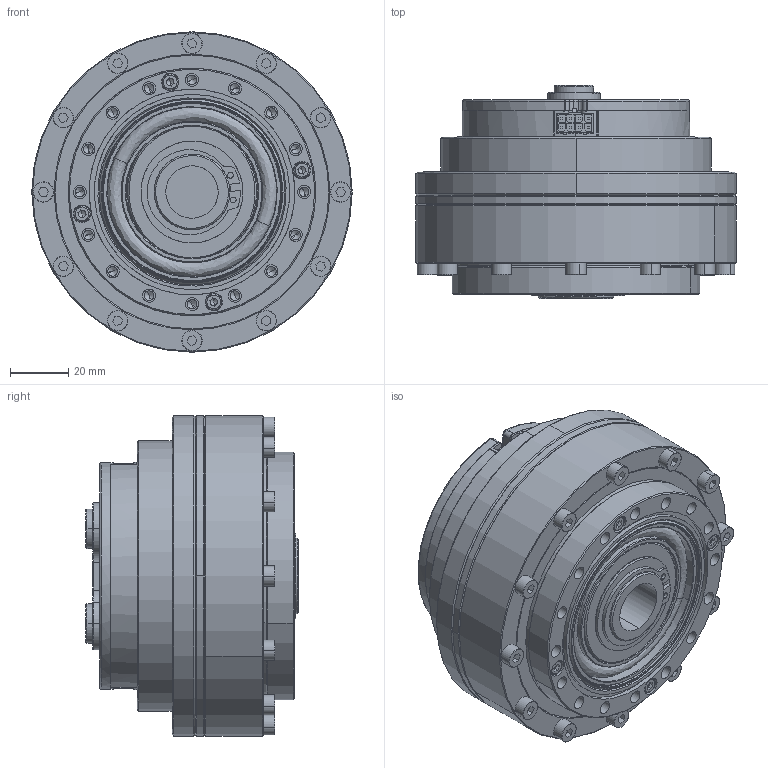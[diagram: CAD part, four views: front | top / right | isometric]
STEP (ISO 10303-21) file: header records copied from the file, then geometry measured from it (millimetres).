
FILE_DESCRIPTION (( 'STEP AP214' ), '1' );
FILE_NAME ('QDD Pro-NU80-160-110_v2_2.STEP', '2019-06-14T10:11:59', ( 'Microsoft' ), ( 'Microsoft' ), 'SwSTEP 2.0', 'SolidWorks 2018', '' );
FILE_SCHEMA (( 'AUTOMOTIVE_DESIGN' ));
Length unit declared in the file: millimetre
Products named in the file (1): QDD Pro-NU80-160-110_v2_2
Bounding box: 110 x 73.1 x 110 mm (x, y, z)
Volume: 404158.1 mm3; surface area: 186557.4 mm2
Topology: 114 solids, 114 shells, 2876 faces, 7020 edges, 4442 vertices
Faces by surface type: plane 1500, cylinder 783, cone 457, torus 83, bspline 53
Entity records: 131854 total; most frequent: CARTESIAN_POINT 33231, ORIENTED_EDGE 13888, DIRECTION 12785, EDGE_CURVE 6944, VERTEX_POINT 4442, AXIS2_PLACEMENT_3D 4299, LINE 4187, VECTOR 4187
